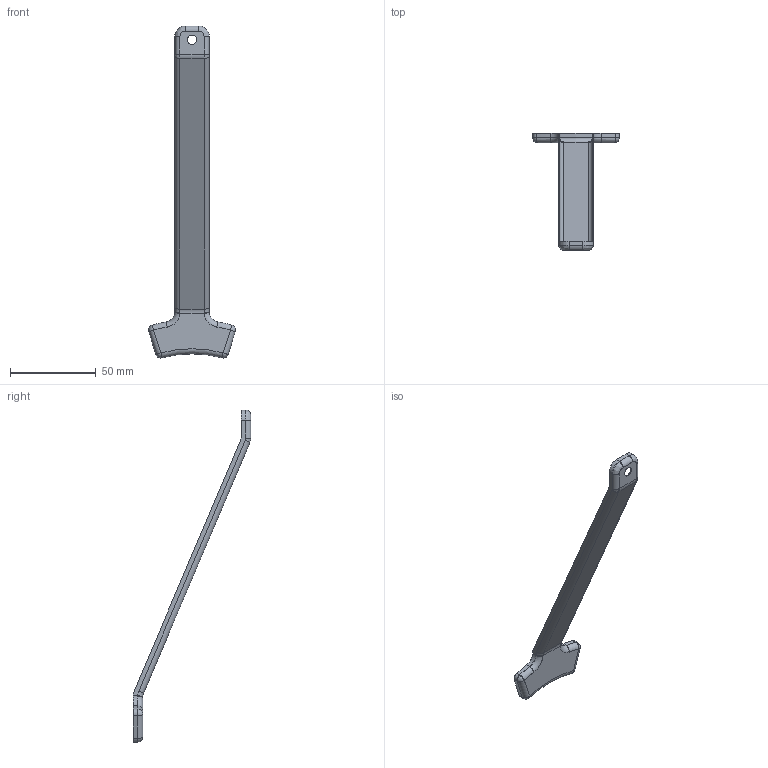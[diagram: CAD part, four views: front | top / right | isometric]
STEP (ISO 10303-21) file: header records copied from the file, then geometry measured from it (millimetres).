
FILE_DESCRIPTION(/* description */ (''),/* implementation_level */ '2;1');
FILE_NAME(/* name */ '2504_ePic_bracket_L1_eSide.stp',/* time_stamp */ '2025-05-05T16:25:32+02:00',/* author */ (''),/* organization */ (''),/* preprocessor_version */ 'ST-DEVELOPER v19.4',/* originating_system */ 'SIEMENS PLM Software NX2306.5001',/* authorisation */ '');
FILE_SCHEMA (('AP203_CONFIGURATION_CONTROLLED_3D_DESIGN_OF_MECHANICAL_PARTS_AND_ASSEMBLIES_MIM_LF { 1 0 10303 403 2 1 2}'));
Length unit declared in the file: millimetre
Products named in the file (1): ePic-Frame_L0toL1-Cone_eSide.v8_dwg_objects
Bounding box: 50.7 x 68.5 x 193.39 mm (x, y, z)
Volume: 3219 mm3; surface area: 13128.7 mm2
Topology: 1 solids, 1 shells, 99 faces, 244 edges, 139 vertices
Faces by surface type: cylinder 45, plane 20, torus 18, sphere 8, bspline 8
Full cylindrical faces by diameter (mm): 5.5 x1
Entity records: 3018 total; most frequent: CARTESIAN_POINT 600, DIRECTION 542, ORIENTED_EDGE 468, EDGE_CURVE 234, AXIS2_PLACEMENT_3D 224, VERTEX_POINT 138, CIRCLE 132, EDGE_LOOP 102
